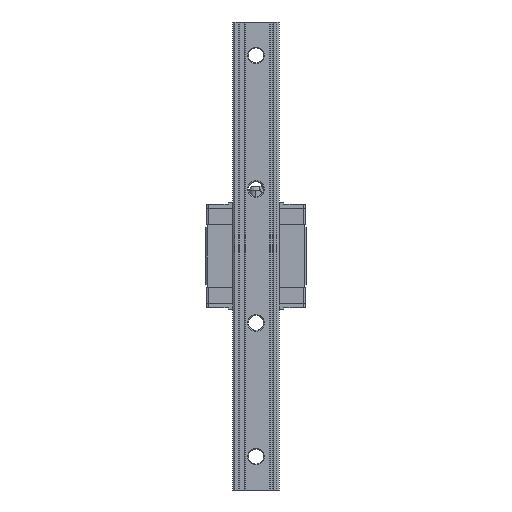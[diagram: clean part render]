
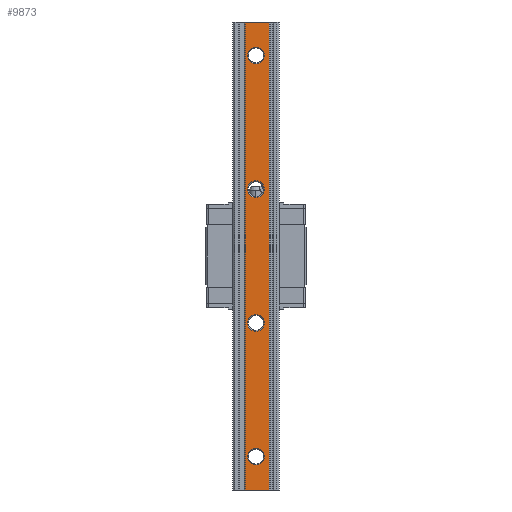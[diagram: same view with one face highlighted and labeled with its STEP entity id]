
A CAD part, front view. The second image highlights one B-rep face of the part: STEP entity #9873.
In plain terms, the highlighted planar face has unit normal (0, -1, 0).
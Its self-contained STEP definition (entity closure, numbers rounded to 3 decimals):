
#327 = CARTESIAN_POINT ( 'NONE',  ( 0., -22.8, 120. ) ) ;
#401 = VERTEX_POINT ( 'NONE', #15876 ) ;
#412 = DIRECTION ( 'NONE',  ( 0., 1., 0. ) ) ;
#432 = DIRECTION ( 'NONE',  ( 0., 0., 1. ) ) ;
#479 = CARTESIAN_POINT ( 'NONE',  ( 0., -22.8, -35. ) ) ;
#584 = CARTESIAN_POINT ( 'NONE',  ( 0., -22.8, 45. ) ) ;
#642 = VECTOR ( 'NONE', #3904, 1000. ) ;
#1268 = EDGE_CURVE ( 'NONE', #9151, #18071, #15749, .T. ) ;
#1313 = ORIENTED_EDGE ( 'NONE', *, *, #7919, .T. ) ;
#1605 = AXIS2_PLACEMENT_3D ( 'NONE', #17061, #5818, #18467 ) ;
#1735 = ORIENTED_EDGE ( 'NONE', *, *, #8729, .T. ) ;
#1990 = VECTOR ( 'NONE', #4845, 1000. ) ;
#2011 = CARTESIAN_POINT ( 'NONE',  ( 0., -22.8, 35. ) ) ;
#2031 = EDGE_LOOP ( 'NONE', ( #5635, #8090 ) ) ;
#2183 = CARTESIAN_POINT ( 'NONE',  ( 0., -22.8, 120. ) ) ;
#2195 = VERTEX_POINT ( 'NONE', #584 ) ;
#2203 = VERTEX_POINT ( 'NONE', #2011 ) ;
#2297 = FACE_OUTER_BOUND ( 'NONE', #8583, .T. ) ;
#2389 = DIRECTION ( 'NONE',  ( 0., 0., 1. ) ) ;
#2482 = LINE ( 'NONE', #8452, #642 ) ;
#3008 = CARTESIAN_POINT ( 'NONE',  ( -6.5, -22.8, 140. ) ) ;
#3726 = FACE_BOUND ( 'NONE', #2031, .T. ) ;
#3904 = DIRECTION ( 'NONE',  ( 1., 0., 0. ) ) ;
#4002 = CARTESIAN_POINT ( 'NONE',  ( 8., -22.8, -140. ) ) ;
#4215 = AXIS2_PLACEMENT_3D ( 'NONE', #6401, #4879, #432 ) ;
#4256 = AXIS2_PLACEMENT_3D ( 'NONE', #9995, #5911, #10267 ) ;
#4276 = CIRCLE ( 'NONE', #18239, 5. ) ;
#4567 = AXIS2_PLACEMENT_3D ( 'NONE', #16917, #15482, #8356 ) ;
#4752 = LINE ( 'NONE', #7872, #1990 ) ;
#4845 = DIRECTION ( 'NONE',  ( 0., 0., -1. ) ) ;
#4879 = DIRECTION ( 'NONE',  ( 0., 1., 0. ) ) ;
#4883 = CIRCLE ( 'NONE', #5190, 5. ) ;
#5142 = ORIENTED_EDGE ( 'NONE', *, *, #11413, .T. ) ;
#5190 = AXIS2_PLACEMENT_3D ( 'NONE', #8808, #8633, #17554 ) ;
#5436 = EDGE_CURVE ( 'NONE', #18071, #12641, #4752, .T. ) ;
#5452 = CIRCLE ( 'NONE', #4256, 5. ) ;
#5519 = CARTESIAN_POINT ( 'NONE',  ( 0., -22.8, -120. ) ) ;
#5635 = ORIENTED_EDGE ( 'NONE', *, *, #13490, .T. ) ;
#5774 = EDGE_LOOP ( 'NONE', ( #5142, #6885 ) ) ;
#5818 = DIRECTION ( 'NONE',  ( 0., 1., 0. ) ) ;
#5911 = DIRECTION ( 'NONE',  ( 0., 1., 0. ) ) ;
#6193 = DIRECTION ( 'NONE',  ( 0., 0., 1. ) ) ;
#6325 = CARTESIAN_POINT ( 'NONE',  ( -6.5, -22.8, -140. ) ) ;
#6338 = CIRCLE ( 'NONE', #4215, 5. ) ;
#6401 = CARTESIAN_POINT ( 'NONE',  ( 0., -22.8, 40. ) ) ;
#6725 = ORIENTED_EDGE ( 'NONE', *, *, #11288, .T. ) ;
#6753 = FACE_BOUND ( 'NONE', #5774, .T. ) ;
#6885 = ORIENTED_EDGE ( 'NONE', *, *, #7385, .T. ) ;
#7027 = VERTEX_POINT ( 'NONE', #6325 ) ;
#7084 = DIRECTION ( 'NONE',  ( 1., 0., 0. ) ) ;
#7385 = EDGE_CURVE ( 'NONE', #2195, #2203, #6338, .T. ) ;
#7534 = VECTOR ( 'NONE', #12973, 1000. ) ;
#7872 = CARTESIAN_POINT ( 'NONE',  ( 8., -22.8, 140. ) ) ;
#7919 = EDGE_CURVE ( 'NONE', #9151, #7027, #14786, .T. ) ;
#8090 = ORIENTED_EDGE ( 'NONE', *, *, #16292, .T. ) ;
#8108 = CARTESIAN_POINT ( 'NONE',  ( 8., -22.8, 140. ) ) ;
#8356 = DIRECTION ( 'NONE',  ( 0., 0., 1. ) ) ;
#8379 = VECTOR ( 'NONE', #7084, 1000. ) ;
#8425 = CARTESIAN_POINT ( 'NONE',  ( -6.5, -22.8, 140. ) ) ;
#8452 = CARTESIAN_POINT ( 'NONE',  ( -6.5, -22.8, -140. ) ) ;
#8583 = EDGE_LOOP ( 'NONE', ( #13660, #12530, #16201, #1313 ) ) ;
#8633 = DIRECTION ( 'NONE',  ( 0., 1., 0. ) ) ;
#8729 = EDGE_CURVE ( 'NONE', #401, #10106, #5452, .T. ) ;
#8808 = CARTESIAN_POINT ( 'NONE',  ( 0., -22.8, 40. ) ) ;
#9146 = EDGE_LOOP ( 'NONE', ( #12275, #6725 ) ) ;
#9151 = VERTEX_POINT ( 'NONE', #9933 ) ;
#9873 = ADVANCED_FACE ( 'NONE', ( #12633, #9895, #6753, #3726, #2297 ), #13867, .F. ) ;
#9895 = FACE_BOUND ( 'NONE', #9146, .T. ) ;
#9933 = CARTESIAN_POINT ( 'NONE',  ( -6.5, -22.8, 140. ) ) ;
#9972 = DIRECTION ( 'NONE',  ( 0., 0., 1. ) ) ;
#9995 = CARTESIAN_POINT ( 'NONE',  ( 0., -22.8, -40. ) ) ;
#10106 = VERTEX_POINT ( 'NONE', #479 ) ;
#10267 = DIRECTION ( 'NONE',  ( 0., 0., 1. ) ) ;
#10385 = DIRECTION ( 'NONE',  ( 0., 1., 0. ) ) ;
#11227 = CIRCLE ( 'NONE', #4567, 5. ) ;
#11288 = EDGE_CURVE ( 'NONE', #14216, #11863, #11227, .T. ) ;
#11413 = EDGE_CURVE ( 'NONE', #2203, #2195, #4883, .T. ) ;
#11598 = CARTESIAN_POINT ( 'NONE',  ( 0., -22.8, -125. ) ) ;
#11813 = AXIS2_PLACEMENT_3D ( 'NONE', #15404, #18446, #2389 ) ;
#11863 = VERTEX_POINT ( 'NONE', #11598 ) ;
#12214 = AXIS2_PLACEMENT_3D ( 'NONE', #2183, #412, #6193 ) ;
#12275 = ORIENTED_EDGE ( 'NONE', *, *, #13551, .T. ) ;
#12530 = ORIENTED_EDGE ( 'NONE', *, *, #5436, .F. ) ;
#12633 = FACE_BOUND ( 'NONE', #16345, .T. ) ;
#12641 = VERTEX_POINT ( 'NONE', #4002 ) ;
#12763 = CIRCLE ( 'NONE', #13370, 5. ) ;
#12973 = DIRECTION ( 'NONE',  ( 0., 0., -1. ) ) ;
#13370 = AXIS2_PLACEMENT_3D ( 'NONE', #327, #10385, #16302 ) ;
#13490 = EDGE_CURVE ( 'NONE', #18742, #15895, #12763, .T. ) ;
#13551 = EDGE_CURVE ( 'NONE', #11863, #14216, #4276, .T. ) ;
#13578 = EDGE_CURVE ( 'NONE', #7027, #12641, #2482, .T. ) ;
#13660 = ORIENTED_EDGE ( 'NONE', *, *, #13578, .T. ) ;
#13867 = PLANE ( 'NONE',  #11813 ) ;
#14216 = VERTEX_POINT ( 'NONE', #17642 ) ;
#14351 = CIRCLE ( 'NONE', #12214, 5. ) ;
#14786 = LINE ( 'NONE', #3008, #7534 ) ;
#15404 = CARTESIAN_POINT ( 'NONE',  ( -6.5, -22.8, 140. ) ) ;
#15482 = DIRECTION ( 'NONE',  ( 0., 1., 0. ) ) ;
#15749 = LINE ( 'NONE', #8425, #8379 ) ;
#15876 = CARTESIAN_POINT ( 'NONE',  ( 0., -22.8, -45. ) ) ;
#15895 = VERTEX_POINT ( 'NONE', #17906 ) ;
#16188 = EDGE_CURVE ( 'NONE', #10106, #401, #18600, .T. ) ;
#16201 = ORIENTED_EDGE ( 'NONE', *, *, #1268, .F. ) ;
#16292 = EDGE_CURVE ( 'NONE', #15895, #18742, #14351, .T. ) ;
#16302 = DIRECTION ( 'NONE',  ( 0., 0., 1. ) ) ;
#16345 = EDGE_LOOP ( 'NONE', ( #1735, #17017 ) ) ;
#16917 = CARTESIAN_POINT ( 'NONE',  ( 0., -22.8, -120. ) ) ;
#16928 = DIRECTION ( 'NONE',  ( 0., 1., 0. ) ) ;
#17017 = ORIENTED_EDGE ( 'NONE', *, *, #16188, .T. ) ;
#17061 = CARTESIAN_POINT ( 'NONE',  ( 0., -22.8, -40. ) ) ;
#17554 = DIRECTION ( 'NONE',  ( 0., 0., 1. ) ) ;
#17642 = CARTESIAN_POINT ( 'NONE',  ( 0., -22.8, -115. ) ) ;
#17906 = CARTESIAN_POINT ( 'NONE',  ( 0., -22.8, 125. ) ) ;
#18071 = VERTEX_POINT ( 'NONE', #8108 ) ;
#18239 = AXIS2_PLACEMENT_3D ( 'NONE', #5519, #16928, #9972 ) ;
#18446 = DIRECTION ( 'NONE',  ( 0., 1., 0. ) ) ;
#18467 = DIRECTION ( 'NONE',  ( 0., 0., 1. ) ) ;
#18576 = CARTESIAN_POINT ( 'NONE',  ( 0., -22.8, 115. ) ) ;
#18600 = CIRCLE ( 'NONE', #1605, 5. ) ;
#18742 = VERTEX_POINT ( 'NONE', #18576 ) ;
